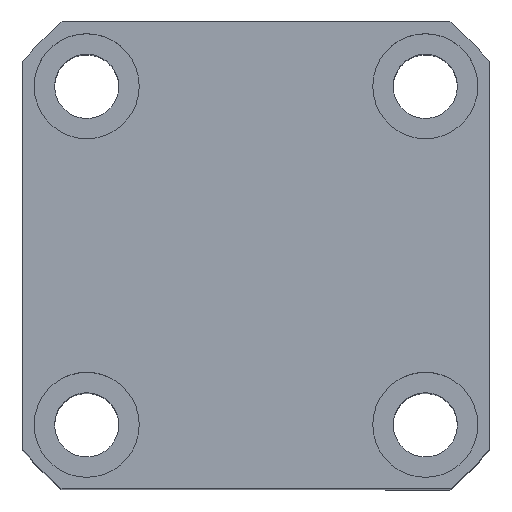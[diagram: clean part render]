
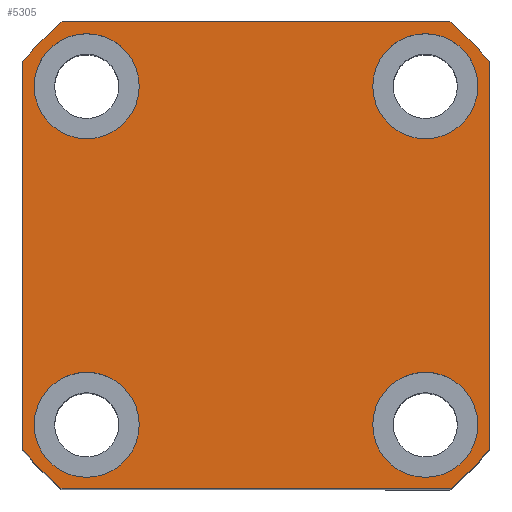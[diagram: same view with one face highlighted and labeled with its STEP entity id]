
A CAD part, top view. The second image highlights one B-rep face of the part: STEP entity #5305.
In plain terms, the highlighted planar face has unit normal (0, 0, 1).
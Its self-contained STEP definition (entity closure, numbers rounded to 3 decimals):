
#118 = DIRECTION ( 'NONE',  ( 0., -1., 0. ) ) ;
#233 = DIRECTION ( 'NONE',  ( 0., 0., 1. ) ) ;
#468 = ORIENTED_EDGE ( 'NONE', *, *, #15570, .F. ) ;
#549 = CARTESIAN_POINT ( 'NONE',  ( 0., 0., 50. ) ) ;
#550 = CARTESIAN_POINT ( 'NONE',  ( -29., 29., 50. ) ) ;
#563 = ORIENTED_EDGE ( 'NONE', *, *, #5402, .T. ) ;
#578 = ORIENTED_EDGE ( 'NONE', *, *, #14646, .F. ) ;
#653 = VERTEX_POINT ( 'NONE', #10359 ) ;
#763 = VERTEX_POINT ( 'NONE', #6324 ) ;
#976 = EDGE_CURVE ( 'NONE', #763, #6834, #18096, .T. ) ;
#1219 = LINE ( 'NONE', #7239, #10579 ) ;
#1300 = EDGE_CURVE ( 'NONE', #5475, #18077, #15698, .T. ) ;
#1514 = ORIENTED_EDGE ( 'NONE', *, *, #5662, .T. ) ;
#1602 = CIRCLE ( 'NONE', #17088, 52. ) ;
#1941 = FACE_OUTER_BOUND ( 'NONE', #17446, .T. ) ;
#2062 = DIRECTION ( 'NONE',  ( 0., 0., 1. ) ) ;
#2073 = CIRCLE ( 'NONE', #9913, 52. ) ;
#2085 = CIRCLE ( 'NONE', #6091, 9. ) ;
#2141 = DIRECTION ( 'NONE',  ( 1., 0., 0. ) ) ;
#2219 = CIRCLE ( 'NONE', #6533, 9. ) ;
#2456 = ORIENTED_EDGE ( 'NONE', *, *, #14146, .F. ) ;
#2637 = DIRECTION ( 'NONE',  ( 1., 0., 0. ) ) ;
#2682 = CARTESIAN_POINT ( 'NONE',  ( -40., 33.226, 50. ) ) ;
#2727 = ORIENTED_EDGE ( 'NONE', *, *, #16503, .T. ) ;
#2832 = ORIENTED_EDGE ( 'NONE', *, *, #4837, .T. ) ;
#2856 = CARTESIAN_POINT ( 'NONE',  ( 0., 0., 50. ) ) ;
#3244 = EDGE_LOOP ( 'NONE', ( #14099, #11246 ) ) ;
#3397 = EDGE_CURVE ( 'NONE', #6834, #763, #5328, .T. ) ;
#3775 = EDGE_CURVE ( 'NONE', #13164, #14874, #16421, .T. ) ;
#3944 = CIRCLE ( 'NONE', #8845, 52. ) ;
#4223 = DIRECTION ( 'NONE',  ( 1., 0., 0. ) ) ;
#4232 = DIRECTION ( 'NONE',  ( 0., 0., 1. ) ) ;
#4233 = VECTOR ( 'NONE', #118, 1000. ) ;
#4366 = VERTEX_POINT ( 'NONE', #17369 ) ;
#4481 = VECTOR ( 'NONE', #14469, 1000. ) ;
#4837 = EDGE_CURVE ( 'NONE', #16284, #13164, #16406, .T. ) ;
#4860 = CARTESIAN_POINT ( 'NONE',  ( -40., -33.226, 50. ) ) ;
#4874 = DIRECTION ( 'NONE',  ( 1., 0., 0. ) ) ;
#5023 = AXIS2_PLACEMENT_3D ( 'NONE', #2856, #7117, #4223 ) ;
#5305 = ADVANCED_FACE ( 'NONE', ( #9378, #5668, #7881, #6739, #1941 ), #16738, .T. ) ;
#5328 = CIRCLE ( 'NONE', #12370, 9. ) ;
#5402 = EDGE_CURVE ( 'NONE', #16686, #16284, #16681, .T. ) ;
#5475 = VERTEX_POINT ( 'NONE', #5627 ) ;
#5552 = AXIS2_PLACEMENT_3D ( 'NONE', #12563, #8279, #10913 ) ;
#5627 = CARTESIAN_POINT ( 'NONE',  ( -20., -29., 50. ) ) ;
#5662 = EDGE_CURVE ( 'NONE', #14327, #16686, #2073, .T. ) ;
#5668 = FACE_BOUND ( 'NONE', #3244, .T. ) ;
#5673 = ORIENTED_EDGE ( 'NONE', *, *, #976, .F. ) ;
#6040 = DIRECTION ( 'NONE',  ( 1., 0., 0. ) ) ;
#6091 = AXIS2_PLACEMENT_3D ( 'NONE', #16437, #12294, #2637 ) ;
#6124 = ORIENTED_EDGE ( 'NONE', *, *, #3397, .F. ) ;
#6252 = DIRECTION ( 'NONE',  ( 1., 0., 0. ) ) ;
#6324 = CARTESIAN_POINT ( 'NONE',  ( 20., 29., 50. ) ) ;
#6533 = AXIS2_PLACEMENT_3D ( 'NONE', #550, #10282, #7401 ) ;
#6564 = CARTESIAN_POINT ( 'NONE',  ( -29., 29., 50. ) ) ;
#6739 = FACE_BOUND ( 'NONE', #10455, .T. ) ;
#6789 = VECTOR ( 'NONE', #6252, 1000. ) ;
#6834 = VERTEX_POINT ( 'NONE', #11504 ) ;
#7117 = DIRECTION ( 'NONE',  ( 0., 0., 1. ) ) ;
#7239 = CARTESIAN_POINT ( 'NONE',  ( -33.226, 40., 50. ) ) ;
#7388 = CARTESIAN_POINT ( 'NONE',  ( -33.226, -40., 50. ) ) ;
#7401 = DIRECTION ( 'NONE',  ( 1., 0., 0. ) ) ;
#7532 = CARTESIAN_POINT ( 'NONE',  ( -33.226, -40., 50. ) ) ;
#7541 = DIRECTION ( 'NONE',  ( 0., 0., 1. ) ) ;
#7670 = CARTESIAN_POINT ( 'NONE',  ( 29., -29., 50. ) ) ;
#7714 = CARTESIAN_POINT ( 'NONE',  ( 33.226, -40., 50. ) ) ;
#7881 = FACE_BOUND ( 'NONE', #8107, .T. ) ;
#7906 = DIRECTION ( 'NONE',  ( 0., 0., 1. ) ) ;
#8107 = EDGE_LOOP ( 'NONE', ( #9895, #578 ) ) ;
#8167 = DIRECTION ( 'NONE',  ( 1., 0., 0. ) ) ;
#8186 = LINE ( 'NONE', #13056, #4481 ) ;
#8279 = DIRECTION ( 'NONE',  ( 0., 0., 1. ) ) ;
#8329 = DIRECTION ( 'NONE',  ( 0., 0., 1. ) ) ;
#8603 = VERTEX_POINT ( 'NONE', #17599 ) ;
#8658 = DIRECTION ( 'NONE',  ( -1., 0., 0. ) ) ;
#8845 = AXIS2_PLACEMENT_3D ( 'NONE', #549, #2062, #4874 ) ;
#8959 = CARTESIAN_POINT ( 'NONE',  ( -38., 29., 50. ) ) ;
#9096 = DIRECTION ( 'NONE',  ( 0., 0., 1. ) ) ;
#9234 = EDGE_CURVE ( 'NONE', #14874, #11493, #1602, .T. ) ;
#9378 = FACE_BOUND ( 'NONE', #10058, .T. ) ;
#9469 = VERTEX_POINT ( 'NONE', #12795 ) ;
#9776 = CARTESIAN_POINT ( 'NONE',  ( 0., 0., 50. ) ) ;
#9895 = ORIENTED_EDGE ( 'NONE', *, *, #10045, .F. ) ;
#9913 = AXIS2_PLACEMENT_3D ( 'NONE', #9982, #233, #6040 ) ;
#9982 = CARTESIAN_POINT ( 'NONE',  ( 0., 0., 50. ) ) ;
#9998 = ORIENTED_EDGE ( 'NONE', *, *, #3775, .T. ) ;
#10045 = EDGE_CURVE ( 'NONE', #653, #17028, #16849, .T. ) ;
#10058 = EDGE_LOOP ( 'NONE', ( #468, #2456 ) ) ;
#10188 = AXIS2_PLACEMENT_3D ( 'NONE', #6564, #10901, #16282 ) ;
#10282 = DIRECTION ( 'NONE',  ( 0., 0., 1. ) ) ;
#10348 = CIRCLE ( 'NONE', #5552, 9. ) ;
#10350 = CARTESIAN_POINT ( 'NONE',  ( -38., -29., 50. ) ) ;
#10359 = CARTESIAN_POINT ( 'NONE',  ( -20., 29., 50. ) ) ;
#10446 = VERTEX_POINT ( 'NONE', #15773 ) ;
#10455 = EDGE_LOOP ( 'NONE', ( #6124, #5673 ) ) ;
#10579 = VECTOR ( 'NONE', #8658, 1000. ) ;
#10901 = DIRECTION ( 'NONE',  ( 0., 0., 1. ) ) ;
#10913 = DIRECTION ( 'NONE',  ( 1., 0., 0. ) ) ;
#11014 = AXIS2_PLACEMENT_3D ( 'NONE', #17448, #9096, #2141 ) ;
#11241 = DIRECTION ( 'NONE',  ( 1., 0., 0. ) ) ;
#11246 = ORIENTED_EDGE ( 'NONE', *, *, #17811, .F. ) ;
#11493 = VERTEX_POINT ( 'NONE', #16090 ) ;
#11504 = CARTESIAN_POINT ( 'NONE',  ( 38., 29., 50. ) ) ;
#11523 = DIRECTION ( 'NONE',  ( 1., 0., 0. ) ) ;
#11776 = DIRECTION ( 'NONE',  ( 0., 0., 1. ) ) ;
#12188 = ORIENTED_EDGE ( 'NONE', *, *, #13223, .T. ) ;
#12294 = DIRECTION ( 'NONE',  ( 0., 0., 1. ) ) ;
#12370 = AXIS2_PLACEMENT_3D ( 'NONE', #13480, #7906, #13664 ) ;
#12563 = CARTESIAN_POINT ( 'NONE',  ( -29., -29., 50. ) ) ;
#12795 = CARTESIAN_POINT ( 'NONE',  ( 20., -29., 50. ) ) ;
#13056 = CARTESIAN_POINT ( 'NONE',  ( 40., 33.226, 50. ) ) ;
#13164 = VERTEX_POINT ( 'NONE', #7532 ) ;
#13185 = CARTESIAN_POINT ( 'NONE',  ( -33.226, 40., 50. ) ) ;
#13223 = EDGE_CURVE ( 'NONE', #4366, #8603, #3944, .T. ) ;
#13380 = CIRCLE ( 'NONE', #17078, 9. ) ;
#13480 = CARTESIAN_POINT ( 'NONE',  ( 29., 29., 50. ) ) ;
#13604 = ORIENTED_EDGE ( 'NONE', *, *, #9234, .T. ) ;
#13654 = AXIS2_PLACEMENT_3D ( 'NONE', #15727, #7541, #11523 ) ;
#13664 = DIRECTION ( 'NONE',  ( 1., 0., 0. ) ) ;
#14099 = ORIENTED_EDGE ( 'NONE', *, *, #1300, .F. ) ;
#14146 = EDGE_CURVE ( 'NONE', #9469, #10446, #13380, .T. ) ;
#14215 = ORIENTED_EDGE ( 'NONE', *, *, #16914, .T. ) ;
#14327 = VERTEX_POINT ( 'NONE', #13185 ) ;
#14469 = DIRECTION ( 'NONE',  ( 0., 1., 0. ) ) ;
#14646 = EDGE_CURVE ( 'NONE', #17028, #653, #2219, .T. ) ;
#14874 = VERTEX_POINT ( 'NONE', #7714 ) ;
#15438 = CARTESIAN_POINT ( 'NONE',  ( -40., 33.226, 50. ) ) ;
#15570 = EDGE_CURVE ( 'NONE', #10446, #9469, #2085, .T. ) ;
#15698 = CIRCLE ( 'NONE', #13654, 9. ) ;
#15727 = CARTESIAN_POINT ( 'NONE',  ( -29., -29., 50. ) ) ;
#15773 = CARTESIAN_POINT ( 'NONE',  ( 38., -29., 50. ) ) ;
#16090 = CARTESIAN_POINT ( 'NONE',  ( 40., -33.226, 50. ) ) ;
#16282 = DIRECTION ( 'NONE',  ( 1., 0., 0. ) ) ;
#16284 = VERTEX_POINT ( 'NONE', #4860 ) ;
#16406 = CIRCLE ( 'NONE', #5023, 52. ) ;
#16421 = LINE ( 'NONE', #7388, #6789 ) ;
#16437 = CARTESIAN_POINT ( 'NONE',  ( 29., -29., 50. ) ) ;
#16503 = EDGE_CURVE ( 'NONE', #8603, #14327, #1219, .T. ) ;
#16681 = LINE ( 'NONE', #15438, #4233 ) ;
#16686 = VERTEX_POINT ( 'NONE', #2682 ) ;
#16705 = CARTESIAN_POINT ( 'NONE',  ( 0., 0., 50. ) ) ;
#16738 = PLANE ( 'NONE',  #17060 ) ;
#16849 = CIRCLE ( 'NONE', #10188, 9. ) ;
#16914 = EDGE_CURVE ( 'NONE', #11493, #4366, #8186, .T. ) ;
#17028 = VERTEX_POINT ( 'NONE', #8959 ) ;
#17060 = AXIS2_PLACEMENT_3D ( 'NONE', #9776, #4232, #11241 ) ;
#17078 = AXIS2_PLACEMENT_3D ( 'NONE', #7670, #11776, #17760 ) ;
#17088 = AXIS2_PLACEMENT_3D ( 'NONE', #16705, #8329, #8167 ) ;
#17369 = CARTESIAN_POINT ( 'NONE',  ( 40., 33.226, 50. ) ) ;
#17446 = EDGE_LOOP ( 'NONE', ( #1514, #563, #2832, #9998, #13604, #14215, #12188, #2727 ) ) ;
#17448 = CARTESIAN_POINT ( 'NONE',  ( 29., 29., 50. ) ) ;
#17599 = CARTESIAN_POINT ( 'NONE',  ( 33.226, 40., 50. ) ) ;
#17760 = DIRECTION ( 'NONE',  ( 1., 0., 0. ) ) ;
#17811 = EDGE_CURVE ( 'NONE', #18077, #5475, #10348, .T. ) ;
#18077 = VERTEX_POINT ( 'NONE', #10350 ) ;
#18096 = CIRCLE ( 'NONE', #11014, 9. ) ;
